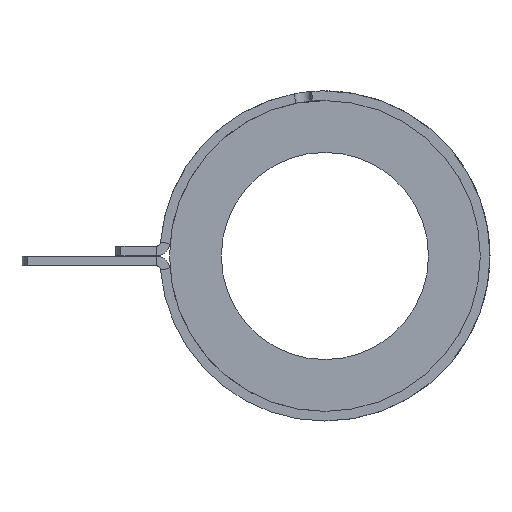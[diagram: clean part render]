
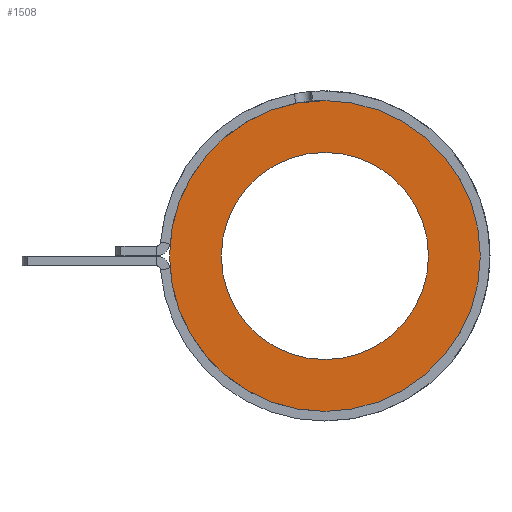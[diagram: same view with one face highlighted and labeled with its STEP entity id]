
A CAD part, left-side view. The second image highlights one B-rep face of the part: STEP entity #1508.
In plain terms, the highlighted planar face has unit normal (-1, 0, 0).
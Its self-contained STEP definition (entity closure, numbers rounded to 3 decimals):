
#62 = PLANE ( 'NONE',  #279 ) ;
#64 = CARTESIAN_POINT ( 'NONE',  ( -107.95, 0., 0. ) ) ;
#69 = DIRECTION ( 'NONE',  ( 1., 0., 0. ) ) ;
#70 = DIRECTION ( 'NONE',  ( 0., 0., -1. ) ) ;
#171 = CARTESIAN_POINT ( 'NONE',  ( -107.95, 0., 0. ) ) ;
#172 = DIRECTION ( 'NONE',  ( 1., 0., 0. ) ) ;
#173 = DIRECTION ( 'NONE',  ( 0., 0., -1. ) ) ;
#174 = CARTESIAN_POINT ( 'NONE',  ( -107.95, 0., 0. ) ) ;
#175 = DIRECTION ( 'NONE',  ( 1., 0., 0. ) ) ;
#176 = DIRECTION ( 'NONE',  ( 0., 0., -1. ) ) ;
#273 = EDGE_CURVE ( 'NONE', #735, #701, #1243, .T. ) ;
#279 = AXIS2_PLACEMENT_3D ( 'NONE', #64, #69, #70 ) ;
#280 = EDGE_CURVE ( 'NONE', #555, #1025, #1240, .T. ) ;
#302 = AXIS2_PLACEMENT_3D ( 'NONE', #974, #975, #976 ) ;
#304 = AXIS2_PLACEMENT_3D ( 'NONE', #964, #965, #966 ) ;
#349 = AXIS2_PLACEMENT_3D ( 'NONE', #174, #175, #176 ) ;
#350 = AXIS2_PLACEMENT_3D ( 'NONE', #171, #172, #173 ) ;
#431 = EDGE_CURVE ( 'NONE', #1025, #555, #1628, .T. ) ;
#435 = EDGE_CURVE ( 'NONE', #701, #735, #1626, .T. ) ;
#555 = VERTEX_POINT ( 'NONE', #916 ) ;
#686 = EDGE_LOOP ( 'NONE', ( #1417, #1418 ) ) ;
#689 = EDGE_LOOP ( 'NONE', ( #1415, #1416 ) ) ;
#701 = VERTEX_POINT ( 'NONE', #918 ) ;
#735 = VERTEX_POINT ( 'NONE', #920 ) ;
#916 = CARTESIAN_POINT ( 'NONE',  ( -107.95, 0., -9.525 ) ) ;
#918 = CARTESIAN_POINT ( 'NONE',  ( -107.95, 0., -14.288 ) ) ;
#920 = CARTESIAN_POINT ( 'NONE',  ( -107.95, 0., 14.288 ) ) ;
#928 = CARTESIAN_POINT ( 'NONE',  ( -107.95, 0., 9.525 ) ) ;
#964 = CARTESIAN_POINT ( 'NONE',  ( -107.95, 0., 0. ) ) ;
#965 = DIRECTION ( 'NONE',  ( 1., 0., 0. ) ) ;
#966 = DIRECTION ( 'NONE',  ( 0., 0., -1. ) ) ;
#974 = CARTESIAN_POINT ( 'NONE',  ( -107.95, 0., 0. ) ) ;
#975 = DIRECTION ( 'NONE',  ( 1., 0., 0. ) ) ;
#976 = DIRECTION ( 'NONE',  ( 0., 0., -1. ) ) ;
#1025 = VERTEX_POINT ( 'NONE', #928 ) ;
#1240 = CIRCLE ( 'NONE', #349, 9.525 ) ;
#1243 = CIRCLE ( 'NONE', #350, 14.288 ) ;
#1415 = ORIENTED_EDGE ( 'NONE', *, *, #273, .F. ) ;
#1416 = ORIENTED_EDGE ( 'NONE', *, *, #435, .F. ) ;
#1417 = ORIENTED_EDGE ( 'NONE', *, *, #431, .T. ) ;
#1418 = ORIENTED_EDGE ( 'NONE', *, *, #280, .T. ) ;
#1508 = ADVANCED_FACE ( 'NONE', ( #1658, #1666 ), #62, .F. ) ;
#1626 = CIRCLE ( 'NONE', #302, 14.288 ) ;
#1628 = CIRCLE ( 'NONE', #304, 9.525 ) ;
#1658 = FACE_OUTER_BOUND ( 'NONE', #689, .T. ) ;
#1666 = FACE_BOUND ( 'NONE', #686, .T. ) ;
